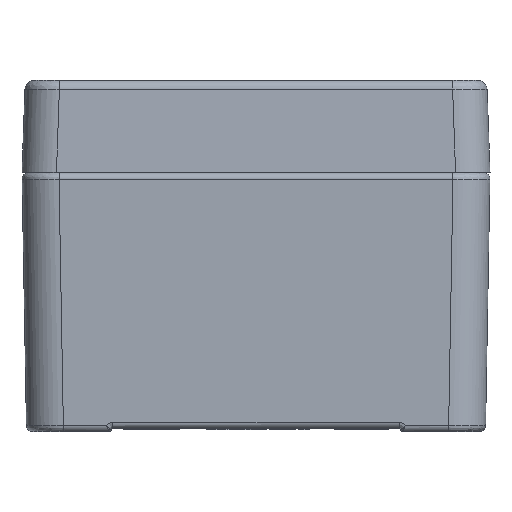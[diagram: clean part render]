
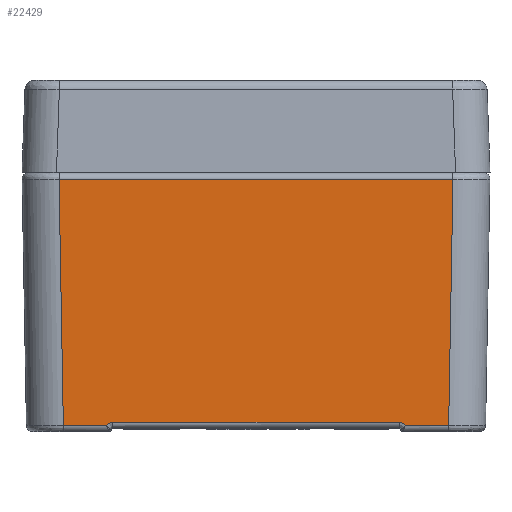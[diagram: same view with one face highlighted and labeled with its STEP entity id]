
A CAD part, left-side view. The second image highlights one B-rep face of the part: STEP entity #22429.
In plain terms, the highlighted planar face has unit normal (-1, 0, -0.018).
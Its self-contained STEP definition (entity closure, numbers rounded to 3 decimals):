
#1038 = EDGE_LOOP ( 'NONE', ( #74087, #37215, #16099, #67794, #14835, #28193, #49433, #40653 ) ) ;
#3625 = DIRECTION ( 'NONE',  ( 0., -1., 0. ) ) ;
#3939 = EDGE_CURVE ( 'NONE', #44238, #14520, #15239, .T. ) ;
#4123 = CARTESIAN_POINT ( 'NONE',  ( -39.784, -31.285, -41.017 ) ) ;
#4137 = CARTESIAN_POINT ( 'NONE',  ( -39.787, -24.134, -40.863 ) ) ;
#4356 = VERTEX_POINT ( 'NONE', #40934 ) ;
#4523 = LINE ( 'NONE', #16086, #50900 ) ;
#7206 = DIRECTION ( 'NONE',  ( -0.017, 0., 1. ) ) ;
#8252 = AXIS2_PLACEMENT_3D ( 'NONE', #64582, #53366, #7206 ) ;
#8267 = VERTEX_POINT ( 'NONE', #25749 ) ;
#9865 = CARTESIAN_POINT ( 'NONE',  ( -39.793, -23.443, -40.517 ) ) ;
#9914 = B_SPLINE_CURVE_WITH_KNOTS ( 'NONE', 3,
 ( #33365, #4137, #73254, #61021, #9865, #49779 ),
 .UNSPECIFIED., .F., .F.,
 ( 4, 2, 4 ),
 ( 0., 0.5, 1. ),
 .UNSPECIFIED. ) ;
#9916 = VECTOR ( 'NONE', #14767, 1000. ) ;
#11243 = EDGE_CURVE ( 'NONE', #4356, #64206, #21294, .T. ) ;
#11337 = DIRECTION ( 'NONE',  ( 0., -1., 0. ) ) ;
#12408 = CARTESIAN_POINT ( 'NONE',  ( -40.482, 31.983, -1.017 ) ) ;
#14476 = B_SPLINE_CURVE_WITH_KNOTS ( 'NONE', 3,
 ( #27398, #61072, #66792, #33416, #38866, #50585 ),
 .UNSPECIFIED., .F., .F.,
 ( 4, 2, 4 ),
 ( 0., 0.5, 1. ),
 .UNSPECIFIED. ) ;
#14520 = VERTEX_POINT ( 'NONE', #35119 ) ;
#14767 = DIRECTION ( 'NONE',  ( 0., 1., 0. ) ) ;
#14835 = ORIENTED_EDGE ( 'NONE', *, *, #66700, .F. ) ;
#15239 = LINE ( 'NONE', #61992, #19703 ) ;
#16086 = CARTESIAN_POINT ( 'NONE',  ( -40.482, 31.983, -1.017 ) ) ;
#16099 = ORIENTED_EDGE ( 'NONE', *, *, #28337, .T. ) ;
#19482 = VECTOR ( 'NONE', #40914, 1000. ) ;
#19703 = VECTOR ( 'NONE', #11337, 1000. ) ;
#21058 = CARTESIAN_POINT ( 'NONE',  ( -39.784, -31.285, -41.017 ) ) ;
#21294 = LINE ( 'NONE', #69364, #19482 ) ;
#21615 = DIRECTION ( 'NONE',  ( -0.017, -0.017, 1. ) ) ;
#22429 = ADVANCED_FACE ( 'NONE', ( #39913 ), #25208, .T. ) ;
#25208 = PLANE ( 'NONE',  #8252 ) ;
#25749 = CARTESIAN_POINT ( 'NONE',  ( -39.784, -24.25, -41.017 ) ) ;
#26751 = EDGE_CURVE ( 'NONE', #50063, #4356, #58332, .T. ) ;
#26781 = CARTESIAN_POINT ( 'NONE',  ( -39.793, 0., -40.517 ) ) ;
#27398 = CARTESIAN_POINT ( 'NONE',  ( -39.793, 23.25, -40.517 ) ) ;
#28193 = ORIENTED_EDGE ( 'NONE', *, *, #63405, .F. ) ;
#28337 = EDGE_CURVE ( 'NONE', #64206, #44238, #4523, .T. ) ;
#33365 = CARTESIAN_POINT ( 'NONE',  ( -39.784, -24.25, -41.017 ) ) ;
#33416 = CARTESIAN_POINT ( 'NONE',  ( -39.789, 23.982, -40.736 ) ) ;
#33845 = DIRECTION ( 'NONE',  ( 0.017, -0.017, -1. ) ) ;
#35119 = CARTESIAN_POINT ( 'NONE',  ( -39.784, 24.25, -41.017 ) ) ;
#35967 = CARTESIAN_POINT ( 'NONE',  ( -39.793, 23.25, -40.517 ) ) ;
#37215 = ORIENTED_EDGE ( 'NONE', *, *, #11243, .T. ) ;
#38866 = CARTESIAN_POINT ( 'NONE',  ( -39.787, 24.134, -40.863 ) ) ;
#39913 = FACE_OUTER_BOUND ( 'NONE', #1038, .T. ) ;
#40272 = EDGE_CURVE ( 'NONE', #8267, #47008, #9914, .T. ) ;
#40653 = ORIENTED_EDGE ( 'NONE', *, *, #47661, .T. ) ;
#40914 = DIRECTION ( 'NONE',  ( 0., 1., 0. ) ) ;
#40934 = CARTESIAN_POINT ( 'NONE',  ( -40.482, -31.983, -1.017 ) ) ;
#44238 = VERTEX_POINT ( 'NONE', #73409 ) ;
#44535 = VECTOR ( 'NONE', #3625, 1000. ) ;
#47008 = VERTEX_POINT ( 'NONE', #72056 ) ;
#47661 = EDGE_CURVE ( 'NONE', #8267, #50063, #60616, .T. ) ;
#49008 = CARTESIAN_POINT ( 'NONE',  ( -39.784, 0., -41.017 ) ) ;
#49433 = ORIENTED_EDGE ( 'NONE', *, *, #40272, .F. ) ;
#49779 = CARTESIAN_POINT ( 'NONE',  ( -39.793, -23.25, -40.517 ) ) ;
#50063 = VERTEX_POINT ( 'NONE', #21058 ) ;
#50270 = VERTEX_POINT ( 'NONE', #35967 ) ;
#50585 = CARTESIAN_POINT ( 'NONE',  ( -39.784, 24.25, -41.017 ) ) ;
#50900 = VECTOR ( 'NONE', #33845, 1000. ) ;
#53366 = DIRECTION ( 'NONE',  ( -1., 0., -0.017 ) ) ;
#57269 = LINE ( 'NONE', #26781, #9916 ) ;
#58332 = LINE ( 'NONE', #4123, #65409 ) ;
#60616 = LINE ( 'NONE', #49008, #44535 ) ;
#61021 = CARTESIAN_POINT ( 'NONE',  ( -39.792, -23.636, -40.563 ) ) ;
#61072 = CARTESIAN_POINT ( 'NONE',  ( -39.793, 23.443, -40.517 ) ) ;
#61992 = CARTESIAN_POINT ( 'NONE',  ( -39.784, 0., -41.017 ) ) ;
#63405 = EDGE_CURVE ( 'NONE', #47008, #50270, #57269, .T. ) ;
#64206 = VERTEX_POINT ( 'NONE', #12408 ) ;
#64582 = CARTESIAN_POINT ( 'NONE',  ( -40.5, 0., 0. ) ) ;
#65409 = VECTOR ( 'NONE', #21615, 1000. ) ;
#66700 = EDGE_CURVE ( 'NONE', #50270, #14520, #14476, .T. ) ;
#66792 = CARTESIAN_POINT ( 'NONE',  ( -39.792, 23.636, -40.563 ) ) ;
#67794 = ORIENTED_EDGE ( 'NONE', *, *, #3939, .T. ) ;
#69364 = CARTESIAN_POINT ( 'NONE',  ( -40.482, 0., -1.017 ) ) ;
#72056 = CARTESIAN_POINT ( 'NONE',  ( -39.793, -23.25, -40.517 ) ) ;
#73254 = CARTESIAN_POINT ( 'NONE',  ( -39.789, -23.982, -40.736 ) ) ;
#73409 = CARTESIAN_POINT ( 'NONE',  ( -39.784, 31.285, -41.017 ) ) ;
#74087 = ORIENTED_EDGE ( 'NONE', *, *, #26751, .T. ) ;
